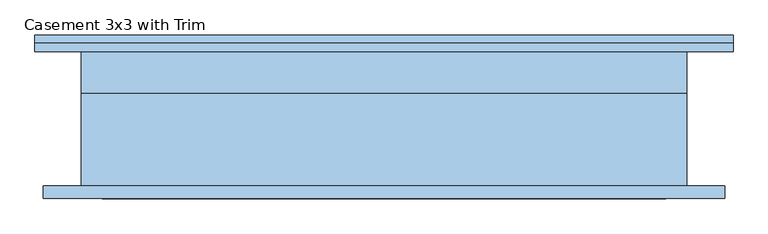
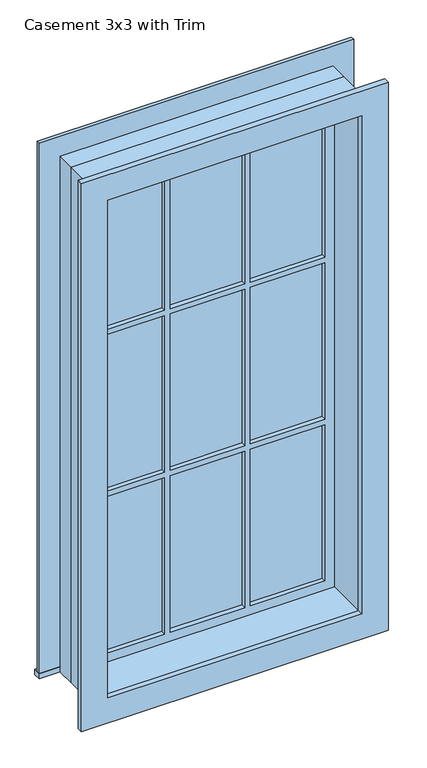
"""IFC4 building model written with IfcOpenShell, lengths in millimetres: window geometry."""

from ifc_helpers import new_model, si_unit, frame, origin, place, context, project, spatial, polyline, outline, extrude, source, transform, mapped, element, save


def casement_3x3_with_trim_8b323df3(model_context):
    return source(origin(), model_context, "Body", "SweptSolid", [
        extrude(outline(polyline([(-527.05, 127.0), (527.05, 127.0), (527.05, 101.6), (-527.05, 101.6), (-527.05, 127.0)])), frame((0.0, 0.0, 304.8), z_axis=(0.0, 0.0, 1.0), x_axis=(1.0, 0.0, 0.0)), (0.0, 0.0, 1.0), 19.05),
        extrude(outline(polyline([(2114.55, -438.15), (2114.55, 438.15), (323.85, 438.15), (323.85, 527.05), (2203.45, 527.05), (2203.45, -527.05), (323.85, -527.05), (323.85, -438.15), (2114.55, -438.15)])), frame((0.0, 101.6, 0.0), z_axis=(0.0, 1.0, 0.0), x_axis=(0.0, 0.0, 1.0)), (0.0, 0.0, 1.0), 12.7),
        extrude(outline(polyline([(143.9333333, 66.675), (393.7, 66.675), (393.7, 53.975), (143.9333333, 53.975), (143.9333333, 66.675)])), frame((0.0, 0.0, 1515.5333333), z_axis=(0.0, 0.0, 1.0), x_axis=(1.0, 0.0, 0.0)), (0.0, 0.0, 1.0), 554.5666667),
        extrude(outline(polyline([(-124.8833333, 66.675), (124.8833333, 66.675), (124.8833333, 53.975), (-124.8833333, 53.975), (-124.8833333, 66.675)])), frame((0.0, 0.0, 1515.5333333), z_axis=(0.0, 0.0, 1.0), x_axis=(1.0, 0.0, 0.0)), (0.0, 0.0, 1.0), 554.5666667),
        extrude(outline(polyline([(-393.7, 66.675), (-143.9333333, 66.675), (-143.9333333, 53.975), (-393.7, 53.975), (-393.7, 66.675)])), frame((0.0, 0.0, 1515.5333333), z_axis=(0.0, 0.0, 1.0), x_axis=(1.0, 0.0, 0.0)), (0.0, 0.0, 1.0), 554.5666667),
        extrude(outline(polyline([(-393.7, 66.675), (-143.9333333, 66.675), (-143.9333333, 53.975), (-393.7, 53.975), (-393.7, 66.675)])), frame((0.0, 0.0, 941.9166667), z_axis=(0.0, 0.0, 1.0), x_axis=(1.0, 0.0, 0.0)), (0.0, 0.0, 1.0), 554.5666667),
        extrude(outline(polyline([(-124.8833333, 66.675), (124.8833333, 66.675), (124.8833333, 53.975), (-124.8833333, 53.975), (-124.8833333, 66.675)])), frame((0.0, 0.0, 941.9166667), z_axis=(0.0, 0.0, 1.0), x_axis=(1.0, 0.0, 0.0)), (0.0, 0.0, 1.0), 554.5666667),
        extrude(outline(polyline([(143.9333333, 66.675), (393.7, 66.675), (393.7, 53.975), (143.9333333, 53.975), (143.9333333, 66.675)])), frame((0.0, 0.0, 941.9166667), z_axis=(0.0, 0.0, 1.0), x_axis=(1.0, 0.0, 0.0)), (0.0, 0.0, 1.0), 554.5666667),
        extrude(outline(polyline([(143.9333333, 66.675), (393.7, 66.675), (393.7, 53.975), (143.9333333, 53.975), (143.9333333, 66.675)])), frame((0.0, 0.0, 368.3), z_axis=(0.0, 0.0, 1.0), x_axis=(1.0, 0.0, 0.0)), (0.0, 0.0, 1.0), 554.5666667),
        extrude(outline(polyline([(-124.8833333, 66.675), (124.8833333, 66.675), (124.8833333, 53.975), (-124.8833333, 53.975), (-124.8833333, 66.675)])), frame((0.0, 0.0, 368.3), z_axis=(0.0, 0.0, 1.0), x_axis=(1.0, 0.0, 0.0)), (0.0, 0.0, 1.0), 554.5666667),
        extrude(outline(polyline([(-393.7, 66.675), (-143.9333333, 66.675), (-143.9333333, 53.975), (-393.7, 53.975), (-393.7, 66.675)])), frame((0.0, 0.0, 368.3), z_axis=(0.0, 0.0, 1.0), x_axis=(1.0, 0.0, 0.0)), (0.0, 0.0, 1.0), 554.5666667),
        extrude(outline(polyline([(2190.75, 514.35), (2190.75, -514.35), (247.65, -514.35), (247.65, 514.35), (2190.75, 514.35)]), holes=[polyline([(2101.85, 425.45), (336.55, 425.45), (336.55, -425.45), (2101.85, -425.45), (2101.85, 425.45)])]), frame((0.0, -120.65, 0.0), z_axis=(0.0, 1.0, 0.0), x_axis=(0.0, 0.0, 1.0)), (0.0, 0.0, 1.0), 19.05),
        extrude(outline(polyline([(2114.55, -438.15), (323.85, -438.15), (323.85, 438.15), (2114.55, 438.15), (2114.55, -438.15)]), holes=[polyline([(2070.1, -143.9333333), (1515.5333333, -143.9333333), (1515.5333333, -393.7), (2070.1, -393.7), (2070.1, -143.9333333)]), polyline([(1496.4833333, -143.9333333), (941.9166667, -143.9333333), (941.9166667, -393.7), (1496.4833333, -393.7), (1496.4833333, -143.9333333)]), polyline([(922.8666667, -143.9333333), (368.3, -143.9333333), (368.3, -393.7), (922.8666667, -393.7), (922.8666667, -143.9333333)]), polyline([(2070.1, 124.8833333), (1515.5333333, 124.8833333), (1515.5333333, -124.8833333), (2070.1, -124.8833333), (2070.1, 124.8833333)]), polyline([(1496.4833333, 124.8833333), (941.9166667, 124.8833333), (941.9166667, -124.8833333), (1496.4833333, -124.8833333), (1496.4833333, 124.8833333)]), polyline([(922.8666667, 124.8833333), (368.3, 124.8833333), (368.3, -124.8833333), (922.8666667, -124.8833333), (922.8666667, 124.8833333)]), polyline([(2070.1, 393.7), (1515.5333333, 393.7), (1515.5333333, 143.9333333), (2070.1, 143.9333333), (2070.1, 393.7)]), polyline([(1496.4833333, 393.7), (941.9166667, 393.7), (941.9166667, 143.9333333), (1496.4833333, 143.9333333), (1496.4833333, 393.7)]), polyline([(922.8666667, 393.7), (368.3, 393.7), (368.3, 143.9333333), (922.8666667, 143.9333333), (922.8666667, 393.7)])]), frame((0.0, 38.1, 0.0), z_axis=(0.0, 1.0, 0.0), x_axis=(0.0, 0.0, 1.0)), (0.0, 0.0, 1.0), 44.45),
        extrude(outline(polyline([(2133.6, -457.2), (304.8, -457.2), (304.8, 457.2), (2133.6, 457.2), (2133.6, -457.2)]), holes=[polyline([(2101.85, -425.45), (2101.85, 425.45), (336.55, 425.45), (336.55, -425.45), (2101.85, -425.45)])]), frame((0.0, -101.6, 0.0), z_axis=(0.0, 1.0, 0.0), x_axis=(0.0, 0.0, 1.0)), (0.0, 0.0, 1.0), 139.7),
        extrude(outline(polyline([(2133.6, 457.2), (2133.6, -457.2), (304.8, -457.2), (304.8, 457.2), (2133.6, 457.2)]), holes=[polyline([(2114.55, 438.15), (323.85, 438.15), (323.85, -438.15), (2114.55, -438.15), (2114.55, 438.15)])]), frame((0.0, 38.1, 0.0), z_axis=(0.0, 1.0, 0.0), x_axis=(0.0, 0.0, 1.0)), (0.0, 0.0, 1.0), 63.5),
    ])


if __name__ == "__main__":
    model = new_model("IFC4")
    model_context = context("Model", 3, world=origin())
    ifc_project = project(units=[si_unit("LENGTHUNIT", "METRE", prefix="MILLI")], contexts=[model_context])
    site = spatial("IfcSite", under=ifc_project)
    building = spatial("IfcBuilding", under=site)
    placement = place(None, origin())
    casement_3x3_with_trim_shape = casement_3x3_with_trim_8b323df3(model_context)
    element("IfcWindow", 1, ObjectType="Casement 3x3 with Trim : 36\"w x 72\"h", at=placement, inside=building, context=model_context, shape_type="MappedRepresentation", body=[
        mapped(casement_3x3_with_trim_shape, transform((0.0, 0.0, 0.0), x_axis=(1.0, 0.0, 0.0), y_axis=(0.0, 1.0, 0.0), z_axis=(0.0, 0.0, 1.0))),
    ])
    save(model, "model.ifc")
